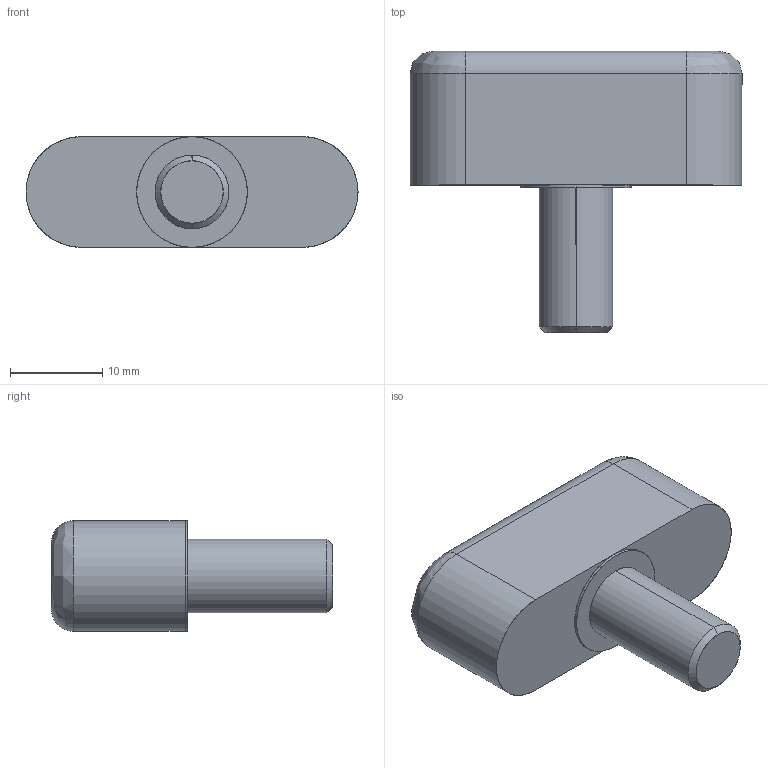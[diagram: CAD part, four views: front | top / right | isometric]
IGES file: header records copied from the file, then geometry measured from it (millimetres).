
Start section: SolidWorks IGES file using analytic representation for surfaces
Global section: file name: C:\Documents and Settings\IanO.IANOHOME\My Documents\Wix and Auto CAD Work\CAD Models\Parametric Models\Wix Models\3738\3738_IGES\3738.W085.igs; native system: SolidWorks 2009; preprocessor: SolidWorks 2009; author: IanO; date: 091209.215753; units: millimetre
Bounding box: 36 x 30.5 x 12 mm (x, y, z)
Surface area: 2350.3 mm2 (no closed solid volume)
Topology: 0 solids, 0 shells, 19 faces, 256 edges, 256 vertices
Faces by surface type: revolution 10, bspline 9
